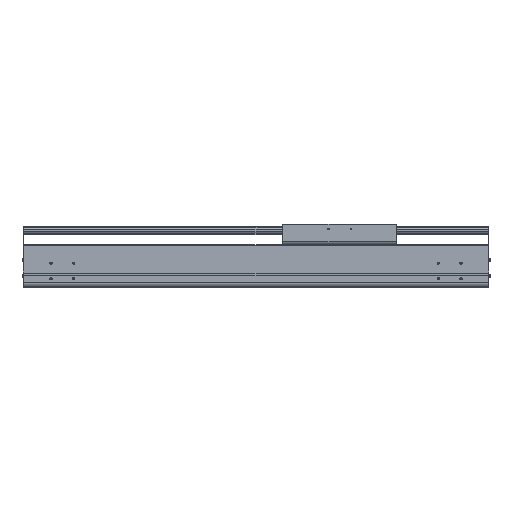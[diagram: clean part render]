
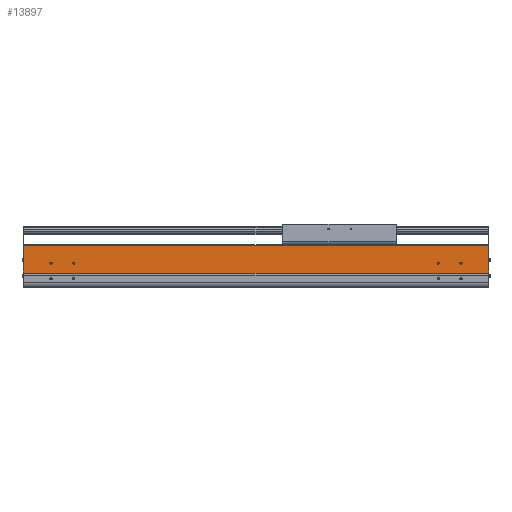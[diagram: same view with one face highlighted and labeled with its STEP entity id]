
A CAD part, top view. The second image highlights one B-rep face of the part: STEP entity #13897.
In plain terms, the highlighted planar face has unit normal (0, 0, 1).
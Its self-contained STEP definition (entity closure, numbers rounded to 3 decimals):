
#54=DIRECTION('',(0.,-1.,0.));
#55=VECTOR('',#54,2.55);
#56=CARTESIAN_POINT('',(0.,34.65,107.));
#57=LINE('',#56,#55);
#2023=DIRECTION('',(1.,0.,0.));
#2024=VECTOR('',#2023,2.);
#2025=CARTESIAN_POINT('',(0.,34.65,107.));
#2026=LINE('',#2025,#2024);
#2031=CARTESIAN_POINT('',(-59.5,54.,107.));
#2032=DIRECTION('',(0.,0.,-1.));
#2033=DIRECTION('',(1.,0.,0.));
#2034=AXIS2_PLACEMENT_3D('',#2031,#2032,#2033);
#2036=CARTESIAN_POINT('',(-59.5,54.,107.));
#2037=DIRECTION('',(0.,0.,-1.));
#2038=DIRECTION('',(-1.,0.,0.));
#2039=AXIS2_PLACEMENT_3D('',#2036,#2037,#2038);
#2041=CARTESIAN_POINT('',(-109.5,54.,107.));
#2042=DIRECTION('',(0.,0.,-1.));
#2043=DIRECTION('',(1.,0.,0.));
#2044=AXIS2_PLACEMENT_3D('',#2041,#2042,#2043);
#2046=CARTESIAN_POINT('',(-109.5,54.,107.));
#2047=DIRECTION('',(0.,0.,-1.));
#2048=DIRECTION('',(-1.,0.,0.));
#2049=AXIS2_PLACEMENT_3D('',#2046,#2047,#2048);
#2051=CARTESIAN_POINT('',(-959.5,54.,107.));
#2052=DIRECTION('',(0.,0.,-1.));
#2053=DIRECTION('',(1.,0.,0.));
#2054=AXIS2_PLACEMENT_3D('',#2051,#2052,#2053);
#2056=CARTESIAN_POINT('',(-959.5,54.,107.));
#2057=DIRECTION('',(0.,0.,-1.));
#2058=DIRECTION('',(-1.,0.,0.));
#2059=AXIS2_PLACEMENT_3D('',#2056,#2057,#2058);
#2061=CARTESIAN_POINT('',(-909.5,54.,107.));
#2062=DIRECTION('',(0.,0.,-1.));
#2063=DIRECTION('',(1.,0.,0.));
#2064=AXIS2_PLACEMENT_3D('',#2061,#2062,#2063);
#2066=CARTESIAN_POINT('',(-909.5,54.,107.));
#2067=DIRECTION('',(0.,0.,-1.));
#2068=DIRECTION('',(-1.,0.,0.));
#2069=AXIS2_PLACEMENT_3D('',#2066,#2067,#2068);
#2071=DIRECTION('',(0.,-1.,0.));
#2072=VECTOR('',#2071,2.55);
#2073=CARTESIAN_POINT('',(-1019.,34.65,107.));
#2074=LINE('',#2073,#2072);
#2075=DIRECTION('',(0.,-1.,0.));
#2076=VECTOR('',#2075,58.85);
#2077=CARTESIAN_POINT('',(-1021.,93.5,107.));
#2078=LINE('',#2077,#2076);
#2079=DIRECTION('',(0.,1.,0.));
#2080=VECTOR('',#2079,58.85);
#2081=CARTESIAN_POINT('',(2.,34.65,107.));
#2082=LINE('',#2081,#2080);
#2083=DIRECTION('',(1.,0.,0.));
#2084=VECTOR('',#2083,1019.);
#2085=CARTESIAN_POINT('',(-1019.,32.1,107.));
#2086=LINE('',#2085,#2084);
#2195=DIRECTION('',(1.,0.,0.));
#2196=VECTOR('',#2195,2.);
#2197=CARTESIAN_POINT('',(-1021.,34.65,107.));
#2198=LINE('',#2197,#2196);
#3816=DIRECTION('',(-1.,0.,0.));
#3817=VECTOR('',#3816,1023.);
#3818=CARTESIAN_POINT('',(2.,93.5,107.));
#3819=LINE('',#3818,#3817);
#9037=CARTESIAN_POINT('',(-1021.,34.65,107.));
#9038=VERTEX_POINT('',#9037);
#9039=CARTESIAN_POINT('',(-1021.,93.5,107.));
#9040=VERTEX_POINT('',#9039);
#9269=CARTESIAN_POINT('',(-1019.,32.1,107.));
#9270=VERTEX_POINT('',#9269);
#9537=CARTESIAN_POINT('',(0.,32.1,107.));
#9538=VERTEX_POINT('',#9537);
#9539=CARTESIAN_POINT('',(-57.,54.,107.));
#9540=CARTESIAN_POINT('',(-62.,54.,107.));
#9541=VERTEX_POINT('',#9539);
#9542=VERTEX_POINT('',#9540);
#9543=CARTESIAN_POINT('',(-107.,54.,107.));
#9544=CARTESIAN_POINT('',(-112.,54.,107.));
#9545=VERTEX_POINT('',#9543);
#9546=VERTEX_POINT('',#9544);
#9547=CARTESIAN_POINT('',(-957.,54.,107.));
#9548=CARTESIAN_POINT('',(-962.,54.,107.));
#9549=VERTEX_POINT('',#9547);
#9550=VERTEX_POINT('',#9548);
#9551=CARTESIAN_POINT('',(-907.,54.,107.));
#9552=CARTESIAN_POINT('',(-912.,54.,107.));
#9553=VERTEX_POINT('',#9551);
#9554=VERTEX_POINT('',#9552);
#10182=CARTESIAN_POINT('',(2.,34.65,107.));
#10183=VERTEX_POINT('',#10182);
#10184=CARTESIAN_POINT('',(2.,93.5,107.));
#10185=VERTEX_POINT('',#10184);
#10636=CARTESIAN_POINT('',(0.,34.65,107.));
#10637=VERTEX_POINT('',#10636);
#10716=CARTESIAN_POINT('',(-1019.,34.65,107.));
#10717=VERTEX_POINT('',#10716);
#13854=CARTESIAN_POINT('',(-509.5,62.8,107.));
#13855=DIRECTION('',(0.,0.,1.));
#13856=DIRECTION('',(0.,-1.,0.));
#13857=AXIS2_PLACEMENT_3D('',#13854,#13855,#13856);
#13858=PLANE('',#13857);
#13859=ORIENTED_EDGE('',*,*,#11856,.F.);
#13861=ORIENTED_EDGE('',*,*,#13860,.F.);
#13863=ORIENTED_EDGE('',*,*,#13862,.F.);
#13865=ORIENTED_EDGE('',*,*,#13864,.F.);
#13866=ORIENTED_EDGE('',*,*,#13652,.F.);
#13867=ORIENTED_EDGE('',*,*,#13847,.F.);
#13868=ORIENTED_EDGE('',*,*,#11476,.T.);
#13870=ORIENTED_EDGE('',*,*,#13869,.F.);
#13871=EDGE_LOOP('',(#13859,#13861,#13863,#13865,#13866,#13867,#13868,#13870));
#13872=FACE_OUTER_BOUND('',#13871,.F.);
#13874=ORIENTED_EDGE('',*,*,#13873,.F.);
#13876=ORIENTED_EDGE('',*,*,#13875,.F.);
#13877=EDGE_LOOP('',(#13874,#13876));
#13878=FACE_BOUND('',#13877,.F.);
#13880=ORIENTED_EDGE('',*,*,#13879,.F.);
#13882=ORIENTED_EDGE('',*,*,#13881,.F.);
#13883=EDGE_LOOP('',(#13880,#13882));
#13884=FACE_BOUND('',#13883,.F.);
#13886=ORIENTED_EDGE('',*,*,#13885,.F.);
#13888=ORIENTED_EDGE('',*,*,#13887,.F.);
#13889=EDGE_LOOP('',(#13886,#13888));
#13890=FACE_BOUND('',#13889,.F.);
#13892=ORIENTED_EDGE('',*,*,#13891,.F.);
#13894=ORIENTED_EDGE('',*,*,#13893,.F.);
#13895=EDGE_LOOP('',(#13892,#13894));
#13896=FACE_BOUND('',#13895,.F.);
#13897=ADVANCED_FACE('',(#13872,#13878,#13884,#13890,#13896),#13858,.T.);
#2035=CIRCLE('',#2034,2.5);
#2040=CIRCLE('',#2039,2.5);
#2045=CIRCLE('',#2044,2.5);
#2050=CIRCLE('',#2049,2.5);
#2055=CIRCLE('',#2054,2.5);
#2060=CIRCLE('',#2059,2.5);
#2065=CIRCLE('',#2064,2.5);
#2070=CIRCLE('',#2069,2.5);
#11476=EDGE_CURVE('',#10637,#9538,#57,.T.);
#11856=EDGE_CURVE('',#10717,#9270,#2074,.T.);
#13652=EDGE_CURVE('',#10183,#10185,#2082,.T.);
#13847=EDGE_CURVE('',#10637,#10183,#2026,.T.);
#13860=EDGE_CURVE('',#9038,#10717,#2198,.T.);
#13862=EDGE_CURVE('',#9040,#9038,#2078,.T.);
#13864=EDGE_CURVE('',#10185,#9040,#3819,.T.);
#13869=EDGE_CURVE('',#9270,#9538,#2086,.T.);
#13873=EDGE_CURVE('',#9545,#9546,#2045,.T.);
#13875=EDGE_CURVE('',#9546,#9545,#2050,.T.);
#13879=EDGE_CURVE('',#9549,#9550,#2055,.T.);
#13881=EDGE_CURVE('',#9550,#9549,#2060,.T.);
#13885=EDGE_CURVE('',#9553,#9554,#2065,.T.);
#13887=EDGE_CURVE('',#9554,#9553,#2070,.T.);
#13891=EDGE_CURVE('',#9541,#9542,#2035,.T.);
#13893=EDGE_CURVE('',#9542,#9541,#2040,.T.);
